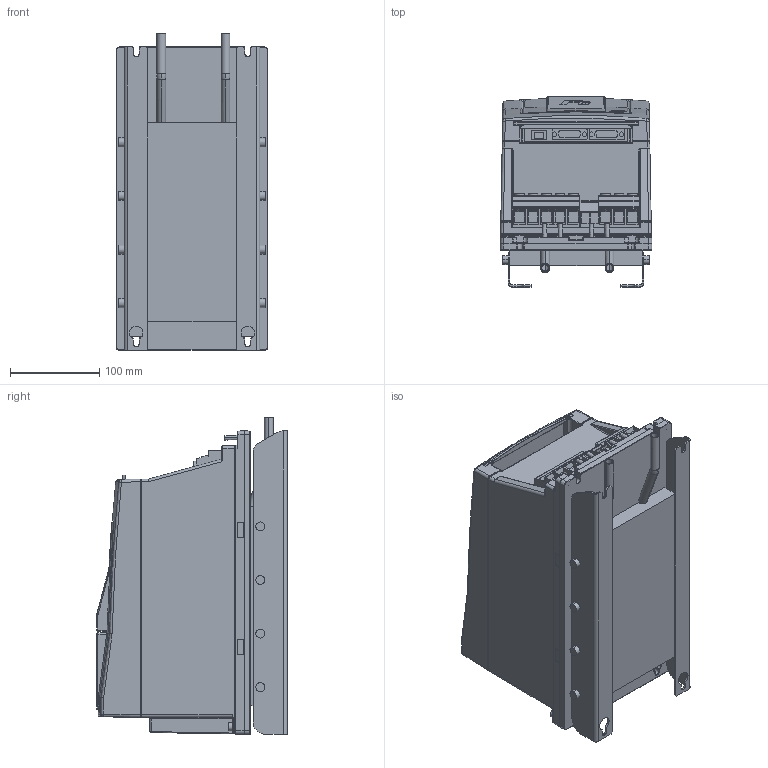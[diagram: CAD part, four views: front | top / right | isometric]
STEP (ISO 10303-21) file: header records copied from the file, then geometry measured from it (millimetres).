
FILE_DESCRIPTION (( 'STEP AP214' ), '1' );
FILE_NAME ('F6-3 TW0-A030.STEP', '2024-08-27T09:45:21', ( '' ), ( '' ), 'SwSTEP 2.0', 'SolidWorks 2022', '' );
FILE_SCHEMA (( 'AUTOMOTIVE_DESIGN' ));
Length unit declared in the file: millimetre
Products named in the file (9): 10059764_000_Blindabdeckung (Kundenmodell); 10068344_000_Leistungsteil TR0 (Kundenmodell); F6-3 TW0-A030; 10035736_000_Kundenmodell; Kundenmodell^10040482_000; Kundenmodell^10035736_000; Kundenmodell^10059764_000; Kundenmodell^10068344_000; 10040482_000_Kundenmodell
Assembly tree (8 placements, depth 4):
  F6-3 TW0-A030
    10068344_000_Leistungsteil TR0 (Kundenmodell)
      Kundenmodell^10068344_000
    10040482_000_Kundenmodell
      Kundenmodell^10040482_000
    10035736_000_Kundenmodell
      10059764_000_Blindabdeckung (Kundenmodell)
        Kundenmodell^10059764_000
      Kundenmodell^10035736_000
Bounding box: 170 x 212.9 x 355 mm (x, y, z)
Volume: 8074066.6 mm3; surface area: 635885.7 mm2
Topology: 11 solids, 12 shells, 1935 faces, 4837 edges, 2967 vertices
Faces by surface type: plane 813, cylinder 590, bspline 330, torus 81, cone 75, sphere 46
Entity records: 65121 total; most frequent: CARTESIAN_POINT 21291, ORIENTED_EDGE 9554, DIRECTION 8318, EDGE_CURVE 4777, VERTEX_POINT 2967, AXIS2_PLACEMENT_3D 2885, VECTOR 2548, LINE 2548
